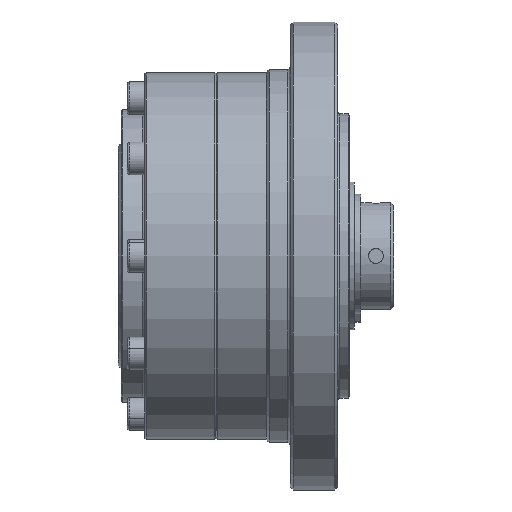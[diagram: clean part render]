
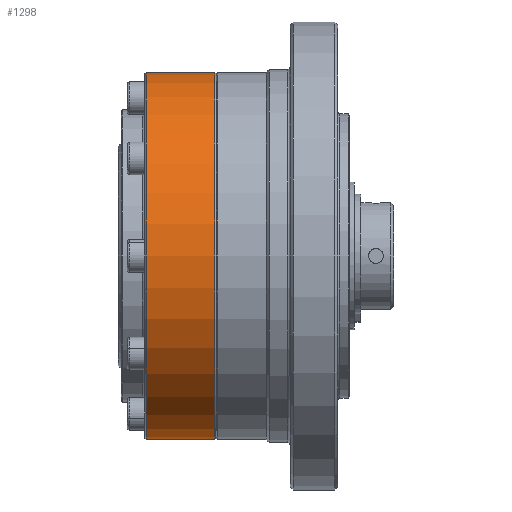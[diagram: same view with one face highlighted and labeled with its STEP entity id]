
A CAD part, front view. The second image highlights one B-rep face of the part: STEP entity #1298.
In plain terms, the highlighted cylindrical face has radius 31 mm (diameter 62 mm), a partial arc.
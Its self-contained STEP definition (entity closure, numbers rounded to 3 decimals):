
#1298 = ADVANCED_FACE ( 'NONE', ( #41577 ), #13584, .T. ) ;
#2408 = AXIS2_PLACEMENT_3D ( 'NONE', #43507, #11981, #48821 ) ;
#4662 = DIRECTION ( 'NONE',  ( 0., 0., 1. ) ) ;
#5817 = ORIENTED_EDGE ( 'NONE', *, *, #54223, .F. ) ;
#9345 = DIRECTION ( 'NONE',  ( -1., 0., 0. ) ) ;
#9693 = AXIS2_PLACEMENT_3D ( 'NONE', #67750, #36206, #4662 ) ;
#11132 = EDGE_CURVE ( 'NONE', #30214, #28654, #36674, .T. ) ;
#11981 = DIRECTION ( 'NONE',  ( -1., 0., 0. ) ) ;
#12007 = AXIS2_PLACEMENT_3D ( 'NONE', #57027, #25298, #41369 ) ;
#13584 = CYLINDRICAL_SURFACE ( 'NONE', #12007, 31. ) ;
#20003 = CIRCLE ( 'NONE', #9693, 31. ) ;
#20427 = ORIENTED_EDGE ( 'NONE', *, *, #51512, .F. ) ;
#25298 = DIRECTION ( 'NONE',  ( -1., 0., 0. ) ) ;
#26239 = VECTOR ( 'NONE', #9345, 1000. ) ;
#26743 = ORIENTED_EDGE ( 'NONE', *, *, #11132, .T. ) ;
#28654 = VERTEX_POINT ( 'NONE', #62204 ) ;
#28668 = EDGE_CURVE ( 'NONE', #41501, #30214, #20003, .T. ) ;
#30214 = VERTEX_POINT ( 'NONE', #41431 ) ;
#33923 = CIRCLE ( 'NONE', #2408, 31. ) ;
#34124 = CARTESIAN_POINT ( 'NONE',  ( -4.025, 0., 31. ) ) ;
#36206 = DIRECTION ( 'NONE',  ( -1., 0., 0. ) ) ;
#36674 = LINE ( 'NONE', #34124, #50698 ) ;
#37881 = ORIENTED_EDGE ( 'NONE', *, *, #28668, .T. ) ;
#39361 = DIRECTION ( 'NONE',  ( -1., 0., 0. ) ) ;
#41369 = DIRECTION ( 'NONE',  ( 0., 0., 1. ) ) ;
#41431 = CARTESIAN_POINT ( 'NONE',  ( 16.3, 0., 31. ) ) ;
#41501 = VERTEX_POINT ( 'NONE', #61994 ) ;
#41577 = FACE_OUTER_BOUND ( 'NONE', #52857, .T. ) ;
#41737 = VERTEX_POINT ( 'NONE', #58977 ) ;
#43507 = CARTESIAN_POINT ( 'NONE',  ( 4.7, 0., 0. ) ) ;
#48821 = DIRECTION ( 'NONE',  ( 0., 0., 1. ) ) ;
#50698 = VECTOR ( 'NONE', #39361, 1000. ) ;
#51512 = EDGE_CURVE ( 'NONE', #41737, #28654, #33923, .T. ) ;
#52857 = EDGE_LOOP ( 'NONE', ( #5817, #37881, #26743, #20427 ) ) ;
#54223 = EDGE_CURVE ( 'NONE', #41501, #41737, #68195, .T. ) ;
#56776 = CARTESIAN_POINT ( 'NONE',  ( -4.025, 0., -31. ) ) ;
#57027 = CARTESIAN_POINT ( 'NONE',  ( -4.025, 0., 0. ) ) ;
#58977 = CARTESIAN_POINT ( 'NONE',  ( 4.7, 0., -31. ) ) ;
#61994 = CARTESIAN_POINT ( 'NONE',  ( 16.3, 0., -31. ) ) ;
#62204 = CARTESIAN_POINT ( 'NONE',  ( 4.7, 0., 31. ) ) ;
#67750 = CARTESIAN_POINT ( 'NONE',  ( 16.3, 0., 0. ) ) ;
#68195 = LINE ( 'NONE', #56776, #26239 ) ;
